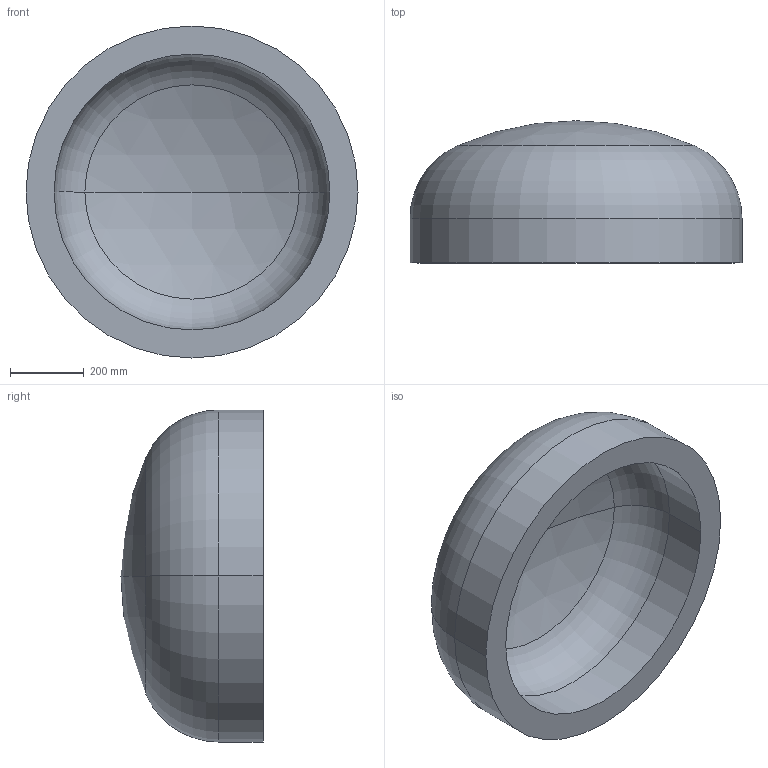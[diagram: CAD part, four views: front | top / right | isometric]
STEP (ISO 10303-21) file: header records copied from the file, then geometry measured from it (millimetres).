
FILE_DESCRIPTION (( 'STEP AP203' ), '1' );
FILE_NAME ('DIN 28013 Korbbogenform_-_Boden DIN 28013 - 900 x 120 - I - s=76.step', '2016-07-01T08:35:51', ( '' ), ( '' ), 'SwSTEP 2.0', 'SolidWorks 2013', '' );
FILE_SCHEMA (( 'CONFIG_CONTROL_DESIGN' ));
Length unit declared in the file: millimetre
Products named in the file (1): DIN 28013 Korbbogenform_-_Boden DIN 28013 - 900 x 120 - I - s=76
Bounding box: 900 x 385.3 x 900 mm (x, y, z)
Volume: 83985743.1 mm3; surface area: 2418987.1 mm2
Topology: 1 solids, 1 shells, 13 faces, 24 edges, 14 vertices
Faces by surface type: torus 4, cylinder 4, sphere 4, plane 1
Entity records: 407 total; most frequent: DIRECTION 72, CARTESIAN_POINT 52, ORIENTED_EDGE 48, AXIS2_PLACEMENT_3D 34, EDGE_CURVE 24, CIRCLE 20, VERTEX_POINT 14, EDGE_LOOP 14
